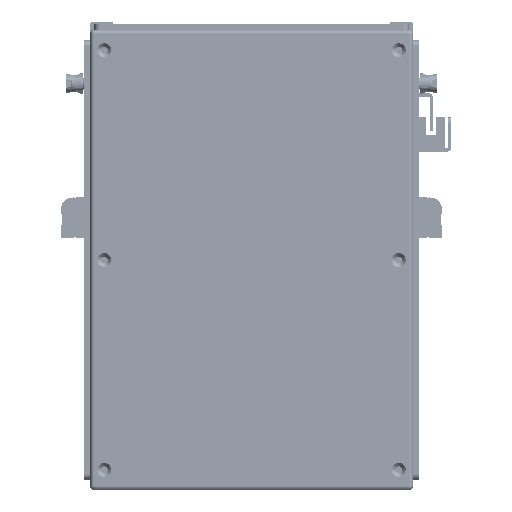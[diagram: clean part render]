
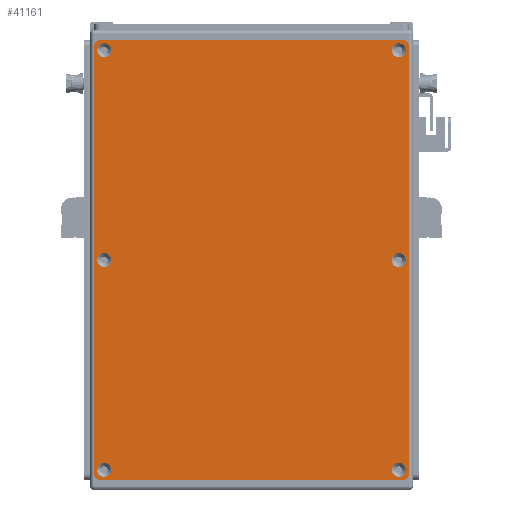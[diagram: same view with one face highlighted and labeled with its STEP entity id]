
A CAD part, front view. The second image highlights one B-rep face of the part: STEP entity #41161.
In plain terms, the highlighted planar face has unit normal (0, -1, 0).
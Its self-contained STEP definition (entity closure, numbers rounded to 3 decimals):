
#2385=FACE_BOUND('',#11130,.T.);
#2386=FACE_BOUND('',#11131,.T.);
#2387=FACE_BOUND('',#11132,.T.);
#2388=FACE_BOUND('',#11133,.T.);
#2389=FACE_BOUND('',#11134,.T.);
#2390=FACE_BOUND('',#11135,.T.);
#3320=PLANE('',#45866);
#8693=FACE_OUTER_BOUND('',#11129,.T.);
#11129=EDGE_LOOP('',(#38165,#38166,#38167,#38168,#38169,#38170,#38171,#38172));
#11130=EDGE_LOOP('',(#38173));
#11131=EDGE_LOOP('',(#38174));
#11132=EDGE_LOOP('',(#38175));
#11133=EDGE_LOOP('',(#38176));
#11134=EDGE_LOOP('',(#38177));
#11135=EDGE_LOOP('',(#38178));
#14130=LINE('',#72257,#17108);
#14131=LINE('',#72261,#17109);
#14132=LINE('',#72265,#17110);
#14133=LINE('',#72268,#17111);
#17108=VECTOR('',#57049,10.);
#17109=VECTOR('',#57052,10.);
#17110=VECTOR('',#57055,10.);
#17111=VECTOR('',#57058,10.);
#19217=CIRCLE('',#45834,3.45);
#19220=CIRCLE('',#45839,3.45);
#19223=CIRCLE('',#45844,3.45);
#19226=CIRCLE('',#45849,3.45);
#19229=CIRCLE('',#45854,3.45);
#19232=CIRCLE('',#45859,3.45);
#19235=CIRCLE('',#45864,3.);
#19237=CIRCLE('',#45867,3.);
#19238=CIRCLE('',#45868,3.);
#19239=CIRCLE('',#45869,3.);
#22694=VERTEX_POINT('',#72187);
#22697=VERTEX_POINT('',#72197);
#22700=VERTEX_POINT('',#72207);
#22703=VERTEX_POINT('',#72217);
#22706=VERTEX_POINT('',#72227);
#22709=VERTEX_POINT('',#72237);
#22712=VERTEX_POINT('',#72247);
#22713=VERTEX_POINT('',#72248);
#22716=VERTEX_POINT('',#72256);
#22717=VERTEX_POINT('',#72258);
#22718=VERTEX_POINT('',#72260);
#22719=VERTEX_POINT('',#72262);
#22720=VERTEX_POINT('',#72264);
#22721=VERTEX_POINT('',#72266);
#27881=EDGE_CURVE('',#22694,#22694,#19217,.T.);
#27886=EDGE_CURVE('',#22697,#22697,#19220,.T.);
#27891=EDGE_CURVE('',#22700,#22700,#19223,.T.);
#27896=EDGE_CURVE('',#22703,#22703,#19226,.T.);
#27901=EDGE_CURVE('',#22706,#22706,#19229,.T.);
#27906=EDGE_CURVE('',#22709,#22709,#19232,.T.);
#27911=EDGE_CURVE('',#22712,#22713,#19235,.T.);
#27915=EDGE_CURVE('',#22712,#22716,#14130,.T.);
#27916=EDGE_CURVE('',#22717,#22716,#19237,.T.);
#27917=EDGE_CURVE('',#22717,#22718,#14131,.T.);
#27918=EDGE_CURVE('',#22719,#22718,#19238,.T.);
#27919=EDGE_CURVE('',#22719,#22720,#14132,.T.);
#27920=EDGE_CURVE('',#22721,#22720,#19239,.T.);
#27921=EDGE_CURVE('',#22721,#22713,#14133,.T.);
#38165=ORIENTED_EDGE('',*,*,#27911,.F.);
#38166=ORIENTED_EDGE('',*,*,#27915,.T.);
#38167=ORIENTED_EDGE('',*,*,#27916,.F.);
#38168=ORIENTED_EDGE('',*,*,#27917,.T.);
#38169=ORIENTED_EDGE('',*,*,#27918,.F.);
#38170=ORIENTED_EDGE('',*,*,#27919,.T.);
#38171=ORIENTED_EDGE('',*,*,#27920,.F.);
#38172=ORIENTED_EDGE('',*,*,#27921,.T.);
#38173=ORIENTED_EDGE('',*,*,#27881,.T.);
#38174=ORIENTED_EDGE('',*,*,#27886,.T.);
#38175=ORIENTED_EDGE('',*,*,#27891,.T.);
#38176=ORIENTED_EDGE('',*,*,#27896,.T.);
#38177=ORIENTED_EDGE('',*,*,#27901,.T.);
#38178=ORIENTED_EDGE('',*,*,#27906,.T.);
#41161=ADVANCED_FACE('',(#8693,#2385,#2386,#2387,#2388,#2389,#2390),#3320,
 .T.);
#45834=AXIS2_PLACEMENT_3D('',#72188,#56969,#56970);
#45839=AXIS2_PLACEMENT_3D('',#72198,#56981,#56982);
#45844=AXIS2_PLACEMENT_3D('',#72208,#56993,#56994);
#45849=AXIS2_PLACEMENT_3D('',#72218,#57005,#57006);
#45854=AXIS2_PLACEMENT_3D('',#72228,#57017,#57018);
#45859=AXIS2_PLACEMENT_3D('',#72238,#57029,#57030);
#45864=AXIS2_PLACEMENT_3D('',#72249,#57041,#57042);
#45866=AXIS2_PLACEMENT_3D('',#72255,#57047,#57048);
#45867=AXIS2_PLACEMENT_3D('',#72259,#57050,#57051);
#45868=AXIS2_PLACEMENT_3D('',#72263,#57053,#57054);
#45869=AXIS2_PLACEMENT_3D('',#72267,#57056,#57057);
#56969=DIRECTION('center_axis',(0.,1.,0.));
#56970=DIRECTION('ref_axis',(1.,0.,0.));
#56981=DIRECTION('center_axis',(0.,1.,0.));
#56982=DIRECTION('ref_axis',(1.,0.,0.));
#56993=DIRECTION('center_axis',(0.,1.,0.));
#56994=DIRECTION('ref_axis',(1.,0.,0.));
#57005=DIRECTION('center_axis',(0.,1.,0.));
#57006=DIRECTION('ref_axis',(1.,0.,0.));
#57017=DIRECTION('center_axis',(0.,1.,0.));
#57018=DIRECTION('ref_axis',(1.,0.,0.));
#57029=DIRECTION('center_axis',(0.,1.,0.));
#57030=DIRECTION('ref_axis',(1.,0.,0.));
#57041=DIRECTION('center_axis',(0.,1.,0.));
#57042=DIRECTION('ref_axis',(-0.707,0.,0.707));
#57047=DIRECTION('center_axis',(0.,-1.,0.));
#57048=DIRECTION('ref_axis',(0.,0.,-1.));
#57049=DIRECTION('',(0.,0.,-1.));
#57050=DIRECTION('center_axis',(0.,1.,0.));
#57051=DIRECTION('ref_axis',(-0.707,0.,-0.707));
#57052=DIRECTION('',(1.,0.,0.));
#57053=DIRECTION('center_axis',(0.,1.,0.));
#57054=DIRECTION('ref_axis',(0.707,0.,-0.707));
#57055=DIRECTION('',(0.,0.,1.));
#57056=DIRECTION('center_axis',(0.,1.,0.));
#57057=DIRECTION('ref_axis',(0.707,0.,0.707));
#57058=DIRECTION('',(-1.,0.,0.));
#72187=CARTESIAN_POINT('',(100.55,-1.5,73.));
#72188=CARTESIAN_POINT('Origin',(104.,-1.5,73.));
#72197=CARTESIAN_POINT('',(-107.45,-1.5,-73.));
#72198=CARTESIAN_POINT('Origin',(-104.,-1.5,-73.));
#72207=CARTESIAN_POINT('',(-3.45,-1.5,73.));
#72208=CARTESIAN_POINT('Origin',(0.,-1.5,73.));
#72217=CARTESIAN_POINT('',(-3.45,-1.5,-73.));
#72218=CARTESIAN_POINT('Origin',(0.,-1.5,-73.));
#72227=CARTESIAN_POINT('',(-107.45,-1.5,73.));
#72228=CARTESIAN_POINT('Origin',(-104.,-1.5,73.));
#72237=CARTESIAN_POINT('',(100.55,-1.5,-73.));
#72238=CARTESIAN_POINT('Origin',(104.,-1.5,-73.));
#72247=CARTESIAN_POINT('',(-109.,-1.5,75.));
#72248=CARTESIAN_POINT('',(-106.,-1.5,78.));
#72249=CARTESIAN_POINT('Origin',(-106.,-1.5,75.));
#72255=CARTESIAN_POINT('Origin',(0.,-1.5,0.));
#72256=CARTESIAN_POINT('',(-109.,-1.5,-75.));
#72257=CARTESIAN_POINT('',(-109.,-1.5,78.));
#72258=CARTESIAN_POINT('',(-106.,-1.5,-78.));
#72259=CARTESIAN_POINT('Origin',(-106.,-1.5,-75.));
#72260=CARTESIAN_POINT('',(106.,-1.5,-78.));
#72261=CARTESIAN_POINT('',(-109.,-1.5,-78.));
#72262=CARTESIAN_POINT('',(109.,-1.5,-75.));
#72263=CARTESIAN_POINT('Origin',(106.,-1.5,-75.));
#72264=CARTESIAN_POINT('',(109.,-1.5,75.));
#72265=CARTESIAN_POINT('',(109.,-1.5,-78.));
#72266=CARTESIAN_POINT('',(106.,-1.5,78.));
#72267=CARTESIAN_POINT('Origin',(106.,-1.5,75.));
#72268=CARTESIAN_POINT('',(109.,-1.5,78.));
